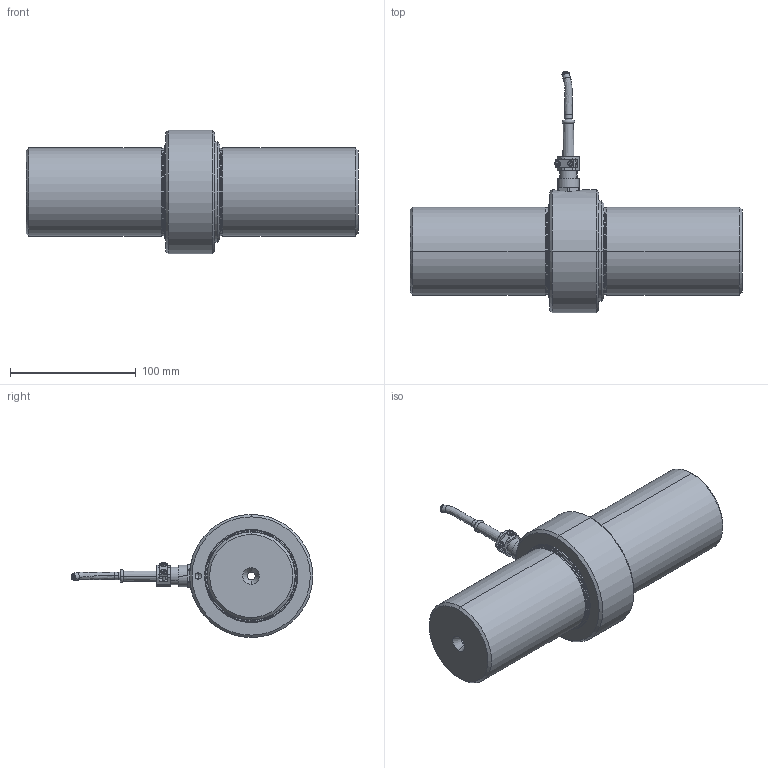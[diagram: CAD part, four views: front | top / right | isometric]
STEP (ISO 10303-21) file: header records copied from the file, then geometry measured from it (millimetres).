
FILE_DESCRIPTION (( 'STEP AP203' ), '1' );
FILE_NAME ('DRW-K-2000-5000.STEP', '2014-05-13T12:32:18', ( 'nsi' ), ( '' ), 'SwSTEP 2.0', 'SolidWorks 2014', '' );
FILE_SCHEMA (( 'CONFIG_CONTROL_DESIGN' ));
Length unit declared in the file: millimetre
Products named in the file (1): DRW-K-2000-5000
Bounding box: 264 x 192.11 x 98 mm (x, y, z)
Surface area: 87525.7 mm2 (no closed solid volume)
Topology: 0 solids, 15 shells, 200 faces, 497 edges, 321 vertices
Faces by surface type: cylinder 83, plane 65, cone 28, torus 18, bspline 6
Entity records: 6537 total; most frequent: CARTESIAN_POINT 1591, DIRECTION 1114, ORIENTED_EDGE 916, EDGE_CURVE 495, AXIS2_PLACEMENT_3D 456, VERTEX_POINT 321, CIRCLE 261, EDGE_LOOP 232
